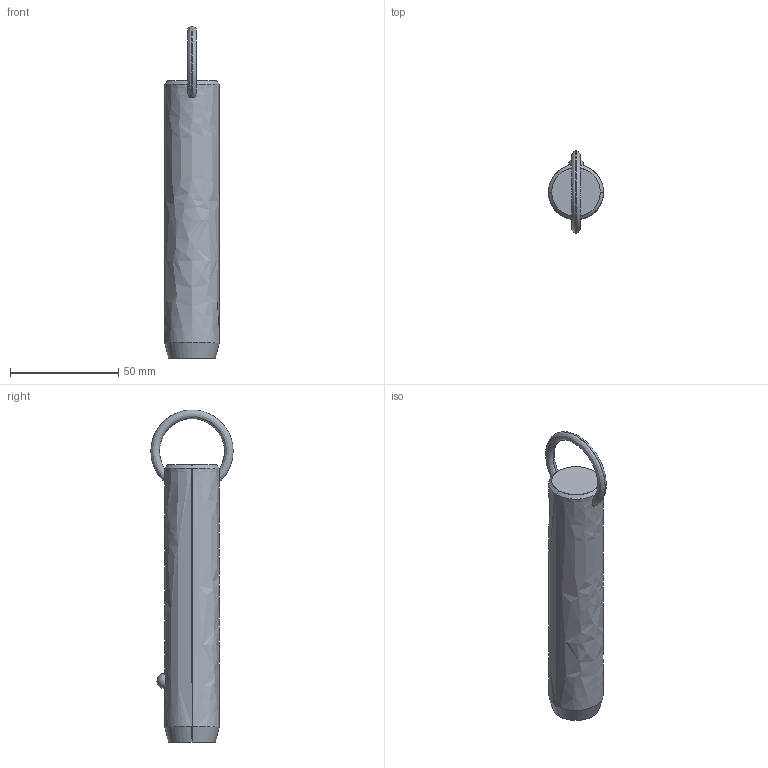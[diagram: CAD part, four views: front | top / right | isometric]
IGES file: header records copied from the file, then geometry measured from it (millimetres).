
Start section: SolidWorks IGES file using analytic representation for surfaces
Global section: file name: C:\Users\liam_\OneDrive\Documents\WORK\Work for WixRoyd\Job Files\J-00019 - Matt Davis CAD Checking\04. CAD Drawings\automotion20190605\P1250.2_v2\P1250.2_v2_20190729_IGES\P1250.100-330.igs; native system: SolidWorks 2017; preprocessor: SolidWorks 2017; author: liam_; date: 190730.173736; units: millimetre
Bounding box: 25.4 x 38.1 x 153.6 mm (x, y, z)
Surface area: 12003.2 mm2 (no closed solid volume)
Topology: 0 solids, 0 shells, 12 faces, 298 edges, 296 vertices
Faces by surface type: revolution 8, bspline 4
